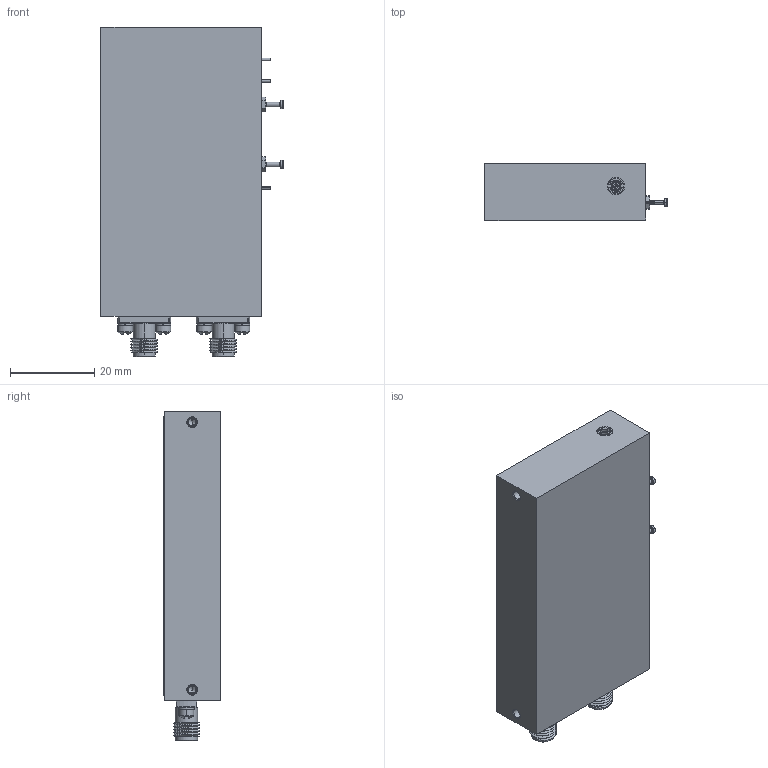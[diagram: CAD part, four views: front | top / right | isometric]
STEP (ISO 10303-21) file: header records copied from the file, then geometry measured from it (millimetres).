
FILE_DESCRIPTION (( 'STEP AP214' ), '1' );
FILE_NAME ('PMIX-11D2G14D6G-1G4D4G-12V.STEP', '2024-12-09T20:45:15', ( '' ), ( '' ), 'SwSTEP 2.0', 'SolidWorks 2024', '' );
FILE_SCHEMA (( 'AUTOMOTIVE_DESIGN' ));
Length unit declared in the file: inch
Products named in the file (1): PMIX-11D2G14D6G-1G4D4G-12V
Bounding box: 43.21 x 13.41 x 78.11 mm (x, y, z)
Volume: 28033.5 mm3; surface area: 21140 mm2
Topology: 31 solids, 31 shells, 1403 faces, 4700 edges, 3577 vertices
Faces by surface type: plane 522, cylinder 425, torus 177, cone 167, sphere 84, bspline 28
Entity records: 79359 total; most frequent: CARTESIAN_POINT 19434, ORIENTED_EDGE 9228, DIRECTION 8050, EDGE_CURVE 4614, VERTEX_POINT 3565, AXIS2_PLACEMENT_3D 2892, LINE 2266, VECTOR 2266
